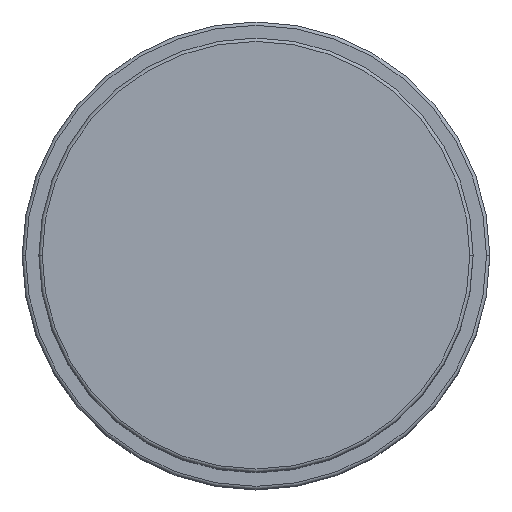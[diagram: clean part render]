
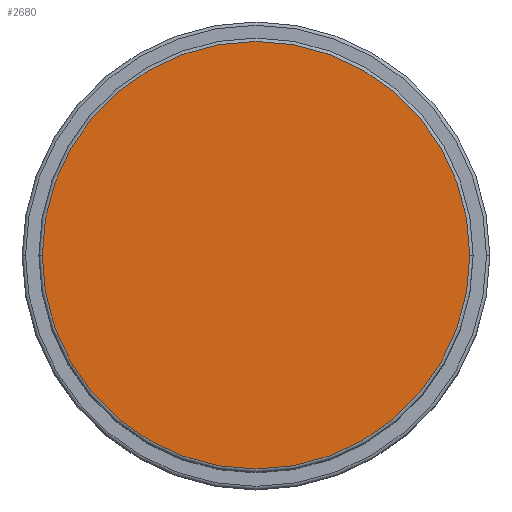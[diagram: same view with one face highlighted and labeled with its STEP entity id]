
A CAD part, top view. The second image highlights one B-rep face of the part: STEP entity #2680.
In plain terms, the highlighted planar face has unit normal (0, 0, 1).
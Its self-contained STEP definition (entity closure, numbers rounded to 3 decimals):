
#367 = CARTESIAN_POINT ( 'NONE',  ( 0., 0., 82. ) ) ;
#561 = VERTEX_POINT ( 'NONE', #942 ) ;
#942 = CARTESIAN_POINT ( 'NONE',  ( -32., 0., 82. ) ) ;
#1396 = PLANE ( 'NONE',  #4084 ) ;
#1848 = CIRCLE ( 'NONE', #4793, 32. ) ;
#2313 = DIRECTION ( 'NONE',  ( 1., 0., 0. ) ) ;
#2680 = ADVANCED_FACE ( 'NONE', ( #4047 ), #1396, .T. ) ;
#2985 = EDGE_CURVE ( 'NONE', #3113, #561, #1848, .T. ) ;
#3113 = VERTEX_POINT ( 'NONE', #5121 ) ;
#3245 = DIRECTION ( 'NONE',  ( 0., 0., 1. ) ) ;
#3270 = CIRCLE ( 'NONE', #3431, 32. ) ;
#3284 = DIRECTION ( 'NONE',  ( 1., 0., 0. ) ) ;
#3431 = AXIS2_PLACEMENT_3D ( 'NONE', #4805, #3563, #2313 ) ;
#3495 = DIRECTION ( 'NONE',  ( 1., 0., 0. ) ) ;
#3533 = EDGE_LOOP ( 'NONE', ( #3575, #3694 ) ) ;
#3563 = DIRECTION ( 'NONE',  ( 0., 0., 1. ) ) ;
#3575 = ORIENTED_EDGE ( 'NONE', *, *, #2985, .T. ) ;
#3694 = ORIENTED_EDGE ( 'NONE', *, *, #5174, .T. ) ;
#3921 = CARTESIAN_POINT ( 'NONE',  ( 0., 0., 82. ) ) ;
#4047 = FACE_OUTER_BOUND ( 'NONE', #3533, .T. ) ;
#4084 = AXIS2_PLACEMENT_3D ( 'NONE', #3921, #4803, #3495 ) ;
#4793 = AXIS2_PLACEMENT_3D ( 'NONE', #367, #3245, #3284 ) ;
#4803 = DIRECTION ( 'NONE',  ( 0., 0., 1. ) ) ;
#4805 = CARTESIAN_POINT ( 'NONE',  ( 0., 0., 82. ) ) ;
#5121 = CARTESIAN_POINT ( 'NONE',  ( 32., 0., 82. ) ) ;
#5174 = EDGE_CURVE ( 'NONE', #561, #3113, #3270, .T. ) ;
